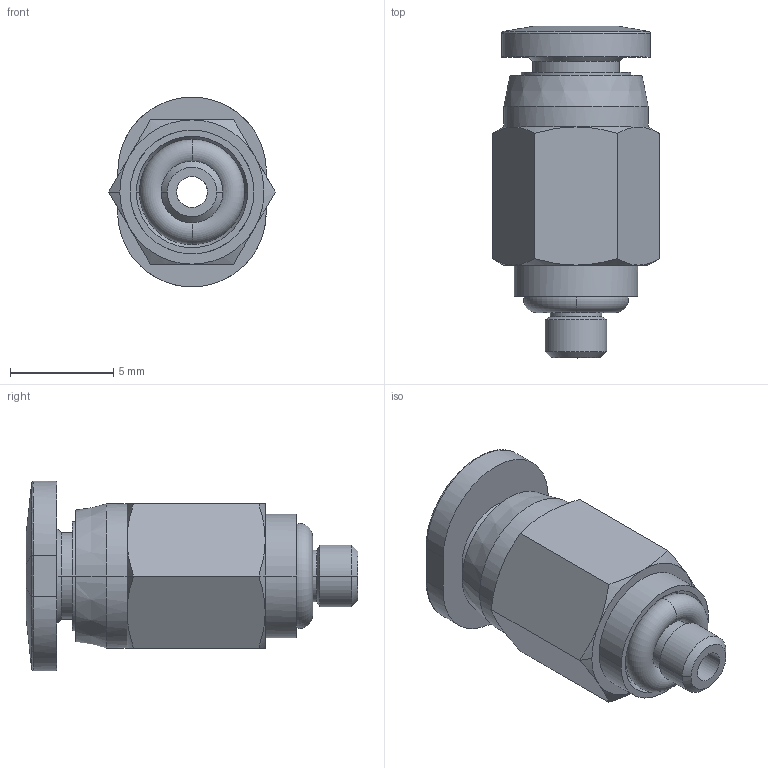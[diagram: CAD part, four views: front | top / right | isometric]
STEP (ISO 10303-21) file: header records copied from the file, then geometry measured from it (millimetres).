
FILE_DESCRIPTION (( 'STEP AP203' ), '1' );
FILE_NAME ('FMH03-M3.STEP', '2020-07-07T10:48:14', ( '' ), ( '' ), 'SwSTEP 2.0', 'SolidWorks 2019', '' );
FILE_SCHEMA (( 'CONFIG_CONTROL_DESIGN' ));
Length unit declared in the file: millimetre
Products named in the file (1): FMH03-M3
Bounding box: 8.08 x 16.1 x 9.2 mm (x, y, z)
Surface area: 660.5 mm2 (no closed solid volume)
Topology: 0 solids, 4 shells, 82 faces, 185 edges, 113 vertices
Faces by surface type: cone 26, cylinder 20, plane 18, bspline 12, torus 6
Entity records: 4389 total; most frequent: CARTESIAN_POINT 2825, ORIENTED_EDGE 354, DIRECTION 186, EDGE_CURVE 185, B_SPLINE_CURVE_WITH_KNOTS 147, VERTEX_POINT 113, EDGE_LOOP 92, FACE_OUTER_BOUND 82
